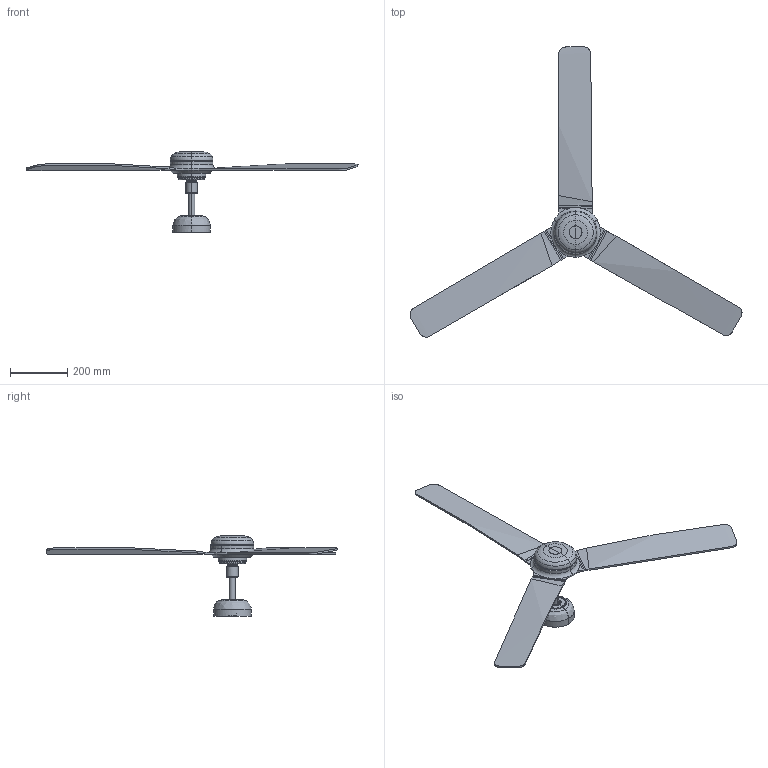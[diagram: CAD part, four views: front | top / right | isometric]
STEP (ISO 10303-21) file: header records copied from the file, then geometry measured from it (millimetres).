
FILE_DESCRIPTION(/* description */ (''),/* implementation_level */ '2;1');
FILE_NAME(/* name */ 'C:\Users\FrancoSartori\Documents\FARO\01_En Proceso\0000_2022\00_PUNT\03_Publicación\PUNT_.stp',/* time_stamp */ '2022-03-25T10:20:04+01:00',/* author */ ('FrancoSartori'),/* organization */ (''),/* preprocessor_version */ 'ST-DEVELOPER v18.1',/* originating_system */ 'AutoCAD Mechanical',/* authorisation */ '');
FILE_SCHEMA (('AUTOMOTIVE_DESIGN { 1 0 10303 214 3 1 1 }'));
Length unit declared in the file: millimetre
Products named in the file (2): Product; PUNT_NL - fan-482283-Export
Assembly tree (1 placements, depth 2):
  Product
    PUNT_NL - fan-482283-Export
Bounding box: 1164.32 x 1017.63 x 282.75 mm (x, y, z)
Volume: 2550843.9 mm3; surface area: 688717.5 mm2
Topology: 7 solids, 7 shells, 324 faces, 868 edges, 560 vertices
Faces by surface type: plane 133, cylinder 80, torus 45, bspline 42, cone 24
Entity records: 13392 total; most frequent: CARTESIAN_POINT 5833, ORIENTED_EDGE 1730, DIRECTION 1311, EDGE_CURVE 865, VERTEX_POINT 555, AXIS2_PLACEMENT_3D 468, LINE 375, VECTOR 375
